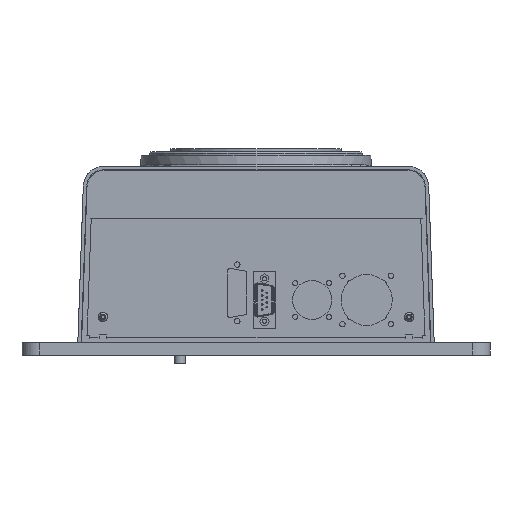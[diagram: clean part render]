
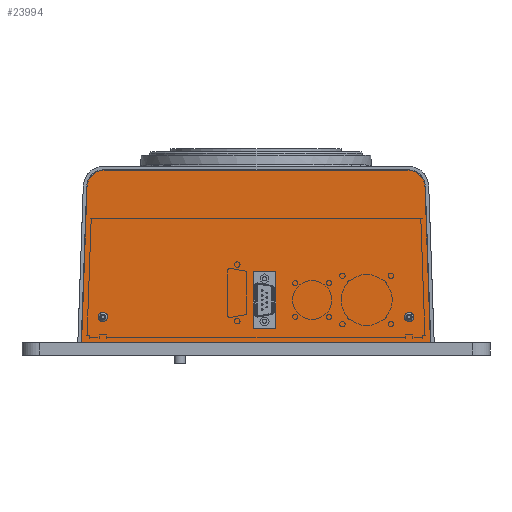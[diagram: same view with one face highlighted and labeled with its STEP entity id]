
A CAD part, left-side view. The second image highlights one B-rep face of the part: STEP entity #23994.
In plain terms, the highlighted planar face has unit normal (-1, 0, 0).
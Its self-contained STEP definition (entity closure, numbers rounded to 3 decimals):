
#678 = DIRECTION ( 'NONE',  ( 0., 0.035, 0.999 ) ) ;
#884 = CARTESIAN_POINT ( 'NONE',  ( -298., 1.5, 41.5 ) ) ;
#1519 = VERTEX_POINT ( 'NONE', #38189 ) ;
#1801 = FACE_BOUND ( 'NONE', #72916, .T. ) ;
#2114 = LINE ( 'NONE', #13100, #24746 ) ;
#3790 = FACE_OUTER_BOUND ( 'NONE', #11533, .T. ) ;
#4193 = CARTESIAN_POINT ( 'NONE',  ( -298., -89.309, 101.2 ) ) ;
#4612 = LINE ( 'NONE', #47142, #6593 ) ;
#4875 = VERTEX_POINT ( 'NONE', #65467 ) ;
#5048 = PLANE ( 'NONE',  #73414 ) ;
#6593 = VECTOR ( 'NONE', #71784, 1000. ) ;
#7504 = EDGE_LOOP ( 'NONE', ( #62472, #8680, #33929, #36074 ) ) ;
#7887 = VERTEX_POINT ( 'NONE', #56491 ) ;
#8680 = ORIENTED_EDGE ( 'NONE', *, *, #27506, .F. ) ;
#11533 = EDGE_LOOP ( 'NONE', ( #68944, #32692, #54877, #15703, #57891, #54610 ) ) ;
#12341 = CARTESIAN_POINT ( 'NONE',  ( -298., 1.5, 8.5 ) ) ;
#12699 = VECTOR ( 'NONE', #31114, 1000. ) ;
#12766 = CARTESIAN_POINT ( 'NONE',  ( -298., 1.5, 41.5 ) ) ;
#13100 = CARTESIAN_POINT ( 'NONE',  ( -298., 102.5, 0. ) ) ;
#13699 = AXIS2_PLACEMENT_3D ( 'NONE', #17258, #61124, #23558 ) ;
#13955 = CARTESIAN_POINT ( 'NONE',  ( -298., 90., 15. ) ) ;
#15030 = LINE ( 'NONE', #45610, #44419 ) ;
#15132 = VECTOR ( 'NONE', #38500, 1000. ) ;
#15703 = ORIENTED_EDGE ( 'NONE', *, *, #57819, .F. ) ;
#17258 = CARTESIAN_POINT ( 'NONE',  ( -298., -90., 15. ) ) ;
#18153 = AXIS2_PLACEMENT_3D ( 'NONE', #73329, #35834, #79612 ) ;
#18626 = ORIENTED_EDGE ( 'NONE', *, *, #58653, .F. ) ;
#19421 = DIRECTION ( 'NONE',  ( 1., 0., 0. ) ) ;
#19697 = VECTOR ( 'NONE', #56226, 1000. ) ;
#20244 = DIRECTION ( 'NONE',  ( 0., -1., 0. ) ) ;
#20653 = EDGE_CURVE ( 'NONE', #44197, #30340, #40489, .T. ) ;
#22949 = VERTEX_POINT ( 'NONE', #26875 ) ;
#23558 = DIRECTION ( 'NONE',  ( 0., -1., 0. ) ) ;
#23994 = ADVANCED_FACE ( 'NONE', ( #1801, #81229, #53836, #3790 ), #5048, .T. ) ;
#24424 = CARTESIAN_POINT ( 'NONE',  ( -298., 89.309, 101.2 ) ) ;
#24533 = EDGE_CURVE ( 'NONE', #39653, #7887, #53756, .T. ) ;
#24746 = VECTOR ( 'NONE', #44589, 1000. ) ;
#26327 = VECTOR ( 'NONE', #64319, 1000. ) ;
#26393 = VECTOR ( 'NONE', #30992, 1000. ) ;
#26875 = CARTESIAN_POINT ( 'NONE',  ( -298., -102.5, 0. ) ) ;
#27506 = EDGE_CURVE ( 'NONE', #4875, #45233, #48478, .T. ) ;
#30340 = VERTEX_POINT ( 'NONE', #4193 ) ;
#30992 = DIRECTION ( 'NONE',  ( 0., -1., 0. ) ) ;
#31114 = DIRECTION ( 'NONE',  ( 0., 0., 1. ) ) ;
#32692 = ORIENTED_EDGE ( 'NONE', *, *, #71090, .T. ) ;
#33929 = ORIENTED_EDGE ( 'NONE', *, *, #59319, .F. ) ;
#34937 = CIRCLE ( 'NONE', #69697, 1.75 ) ;
#35107 = CARTESIAN_POINT ( 'NONE',  ( -298., -91.75, 15. ) ) ;
#35124 = AXIS2_PLACEMENT_3D ( 'NONE', #57008, #19421, #63297 ) ;
#35507 = VERTEX_POINT ( 'NONE', #35107 ) ;
#35781 = EDGE_CURVE ( 'NONE', #43885, #1519, #59732, .T. ) ;
#35834 = DIRECTION ( 'NONE',  ( -1., 0., 0. ) ) ;
#36074 = ORIENTED_EDGE ( 'NONE', *, *, #35781, .F. ) ;
#36293 = CARTESIAN_POINT ( 'NONE',  ( -298., -89.309, 91.2 ) ) ;
#38189 = CARTESIAN_POINT ( 'NONE',  ( -298., -11.5, 8.5 ) ) ;
#38500 = DIRECTION ( 'NONE',  ( 0., 1., 0. ) ) ;
#38979 = ORIENTED_EDGE ( 'NONE', *, *, #77905, .F. ) ;
#39653 = VERTEX_POINT ( 'NONE', #63445 ) ;
#40489 = CIRCLE ( 'NONE', #18153, 10. ) ;
#42268 = DIRECTION ( 'NONE',  ( -1., 0., 0. ) ) ;
#43885 = VERTEX_POINT ( 'NONE', #46650 ) ;
#44197 = VERTEX_POINT ( 'NONE', #74286 ) ;
#44419 = VECTOR ( 'NONE', #678, 1000. ) ;
#44589 = DIRECTION ( 'NONE',  ( 0., -0.035, 0.999 ) ) ;
#45233 = VERTEX_POINT ( 'NONE', #884 ) ;
#45610 = CARTESIAN_POINT ( 'NONE',  ( -298., -102.5, 0. ) ) ;
#45662 = EDGE_LOOP ( 'NONE', ( #38979 ) ) ;
#46161 = VERTEX_POINT ( 'NONE', #55472 ) ;
#46650 = CARTESIAN_POINT ( 'NONE',  ( -298., 1.5, 8.5 ) ) ;
#47142 = CARTESIAN_POINT ( 'NONE',  ( -298., 102.5, 0. ) ) ;
#48478 = LINE ( 'NONE', #12766, #15132 ) ;
#48876 = DIRECTION ( 'NONE',  ( 0., -1., 0. ) ) ;
#49486 = CARTESIAN_POINT ( 'NONE',  ( -298., -11.5, 8.5 ) ) ;
#53756 = CIRCLE ( 'NONE', #35124, 10. ) ;
#53836 = FACE_BOUND ( 'NONE', #7504, .T. ) ;
#54610 = ORIENTED_EDGE ( 'NONE', *, *, #73246, .F. ) ;
#54877 = ORIENTED_EDGE ( 'NONE', *, *, #20653, .T. ) ;
#55046 = LINE ( 'NONE', #12341, #19697 ) ;
#55472 = CARTESIAN_POINT ( 'NONE',  ( -298., 88.25, 15. ) ) ;
#56226 = DIRECTION ( 'NONE',  ( 0., 0., -1. ) ) ;
#56491 = CARTESIAN_POINT ( 'NONE',  ( -298., 89.309, 101.2 ) ) ;
#57008 = CARTESIAN_POINT ( 'NONE',  ( -298., 89.309, 91.2 ) ) ;
#57819 = EDGE_CURVE ( 'NONE', #7887, #30340, #76390, .T. ) ;
#57835 = DIRECTION ( 'NONE',  ( -1., 0., 0. ) ) ;
#57891 = ORIENTED_EDGE ( 'NONE', *, *, #24533, .F. ) ;
#58073 = CARTESIAN_POINT ( 'NONE',  ( -298., 1.5, 8.5 ) ) ;
#58653 = EDGE_CURVE ( 'NONE', #35507, #35507, #71552, .T. ) ;
#59319 = EDGE_CURVE ( 'NONE', #1519, #4875, #73443, .T. ) ;
#59732 = LINE ( 'NONE', #58073, #26327 ) ;
#61124 = DIRECTION ( 'NONE',  ( -1., 0., 0. ) ) ;
#62472 = ORIENTED_EDGE ( 'NONE', *, *, #74572, .F. ) ;
#63297 = DIRECTION ( 'NONE',  ( 0., 1., 0. ) ) ;
#63445 = CARTESIAN_POINT ( 'NONE',  ( -298., 99.303, 91.549 ) ) ;
#64319 = DIRECTION ( 'NONE',  ( 0., -1., 0. ) ) ;
#65467 = CARTESIAN_POINT ( 'NONE',  ( -298., -11.5, 41.5 ) ) ;
#68944 = ORIENTED_EDGE ( 'NONE', *, *, #77620, .T. ) ;
#69697 = AXIS2_PLACEMENT_3D ( 'NONE', #13955, #57835, #20244 ) ;
#71090 = EDGE_CURVE ( 'NONE', #22949, #44197, #15030, .T. ) ;
#71204 = VERTEX_POINT ( 'NONE', #72166 ) ;
#71552 = CIRCLE ( 'NONE', #13699, 1.75 ) ;
#71784 = DIRECTION ( 'NONE',  ( 0., -1., 0. ) ) ;
#72166 = CARTESIAN_POINT ( 'NONE',  ( -298., 102.5, 0. ) ) ;
#72916 = EDGE_LOOP ( 'NONE', ( #18626 ) ) ;
#73246 = EDGE_CURVE ( 'NONE', #71204, #39653, #2114, .T. ) ;
#73329 = CARTESIAN_POINT ( 'NONE',  ( -298., -89.309, 91.2 ) ) ;
#73414 = AXIS2_PLACEMENT_3D ( 'NONE', #36293, #42268, #48876 ) ;
#73443 = LINE ( 'NONE', #49486, #12699 ) ;
#74286 = CARTESIAN_POINT ( 'NONE',  ( -298., -99.303, 91.549 ) ) ;
#74572 = EDGE_CURVE ( 'NONE', #45233, #43885, #55046, .T. ) ;
#76390 = LINE ( 'NONE', #24424, #26393 ) ;
#77620 = EDGE_CURVE ( 'NONE', #71204, #22949, #4612, .T. ) ;
#77905 = EDGE_CURVE ( 'NONE', #46161, #46161, #34937, .T. ) ;
#79612 = DIRECTION ( 'NONE',  ( 0., -1., 0. ) ) ;
#81229 = FACE_BOUND ( 'NONE', #45662, .T. ) ;
